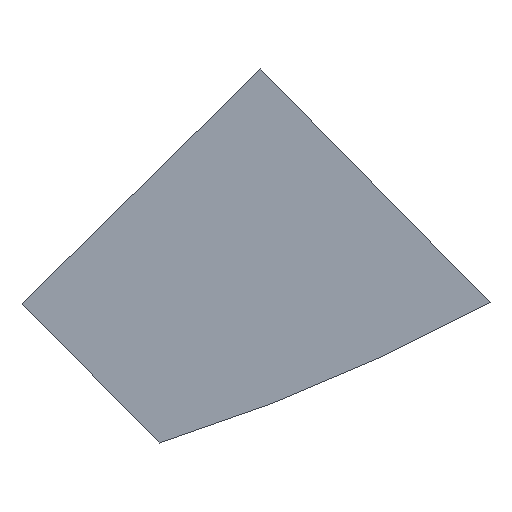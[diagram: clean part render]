
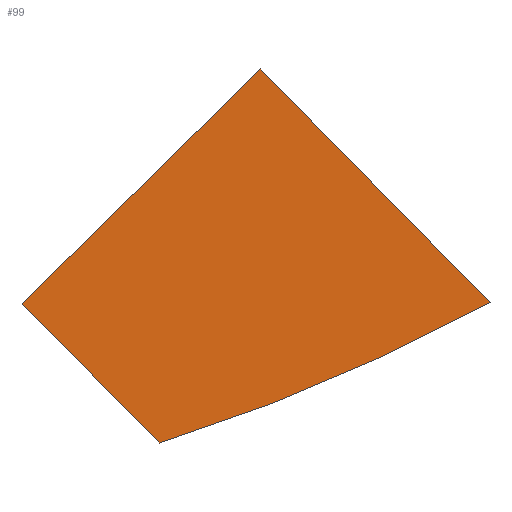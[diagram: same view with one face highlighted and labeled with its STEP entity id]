
A CAD part, left-side view. The second image highlights one B-rep face of the part: STEP entity #99.
In plain terms, the highlighted planar face has unit normal (-1, 0, 0).
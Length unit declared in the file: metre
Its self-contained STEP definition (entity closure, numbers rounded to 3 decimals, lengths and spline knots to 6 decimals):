
#14=CIRCLE('',#120,0.06);
#27=ORIENTED_EDGE('',*,*,#40,.F.);
#28=ORIENTED_EDGE('',*,*,#48,.T.);
#29=ORIENTED_EDGE('',*,*,#49,.T.);
#30=ORIENTED_EDGE('',*,*,#43,.F.);
#40=EDGE_CURVE('',#51,#53,#60,.T.);
#43=EDGE_CURVE('',#53,#55,#63,.T.);
#48=EDGE_CURVE('',#51,#58,#14,.T.);
#49=EDGE_CURVE('',#58,#55,#67,.T.);
#51=VERTEX_POINT('',#154);
#53=VERTEX_POINT('',#157);
#55=VERTEX_POINT('',#163);
#58=VERTEX_POINT('',#173);
#60=LINE('',#156,#70);
#63=LINE('',#162,#73);
#67=LINE('',#174,#77);
#70=VECTOR('',#128,1.);
#73=VECTOR('',#133,1.);
#77=VECTOR('',#145,1.);
#82=EDGE_LOOP('',(#27,#28,#29,#30));
#88=FACE_BOUND('',#82,.T.);
#94=PLANE('',#119);
#99=ADVANCED_FACE('',(#88),#94,.T.);
#119=AXIS2_PLACEMENT_3D('',#171,#141,#142);
#120=AXIS2_PLACEMENT_3D('',#172,#143,#144);
#128=DIRECTION('',(0.,0.7,0.714));
#133=DIRECTION('',(0.,-0.714,0.7));
#141=DIRECTION('',(-1.,0.,0.));
#142=DIRECTION('',(0.,-1.,0.));
#143=DIRECTION('',(-1.,0.,0.));
#144=DIRECTION('',(0.,-1.,0.));
#145=DIRECTION('',(0.,0.7,0.714));
#154=CARTESIAN_POINT('',(-0.0325,-0.052079,0.092557));
#156=CARTESIAN_POINT('',(-0.0325,-0.056636,0.087912));
#157=CARTESIAN_POINT('',(-0.0325,-0.047721,0.097001));
#162=CARTESIAN_POINT('',(-0.0325,-0.032471,0.082045));
#163=CARTESIAN_POINT('',(-0.0325,-0.055317,0.104452));
#171=CARTESIAN_POINT('',(-0.0325,-0.041386,0.072955));
#172=CARTESIAN_POINT('',(-0.0325,-0.034021,0.149775));
#173=CARTESIAN_POINT('',(-0.0325,-0.062605,0.097021));
#174=CARTESIAN_POINT('',(-0.0325,-0.064232,0.095362));
